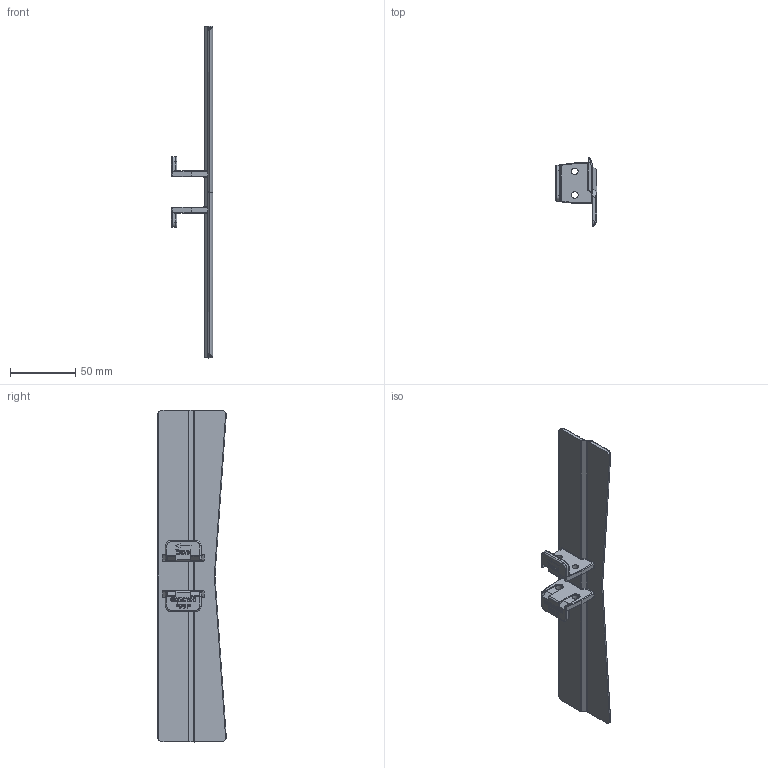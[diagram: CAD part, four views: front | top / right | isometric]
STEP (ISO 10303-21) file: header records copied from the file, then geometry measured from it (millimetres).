
FILE_DESCRIPTION((''),'2;1');
FILE_NAME('P005','2015-12-02T',('bhe'),(''),'CREO PARAMETRIC BY PTC INC, 2015290','CREO PARAMETRIC BY PTC INC, 2015290','');
FILE_SCHEMA(('CONFIG_CONTROL_DESIGN'));
Length unit declared in the file: millimetre
Products named in the file (1): P005
Bounding box: 31.8 x 52.39 x 254 mm (x, y, z)
Volume: 54266.8 mm3; surface area: 30912.7 mm2
Topology: 1 solids, 1 shells, 1123 faces, 3075 edges, 1989 vertices
Faces by surface type: plane 885, cylinder 128, bspline 60, torus 50
Entity records: 40459 total; most frequent: CARTESIAN_POINT 12293, ORIENTED_EDGE 6138, DIRECTION 5339, EDGE_CURVE 3069, VECTOR 2629, LINE 2629, VERTEX_POINT 1989, AXIS2_PLACEMENT_3D 1355
